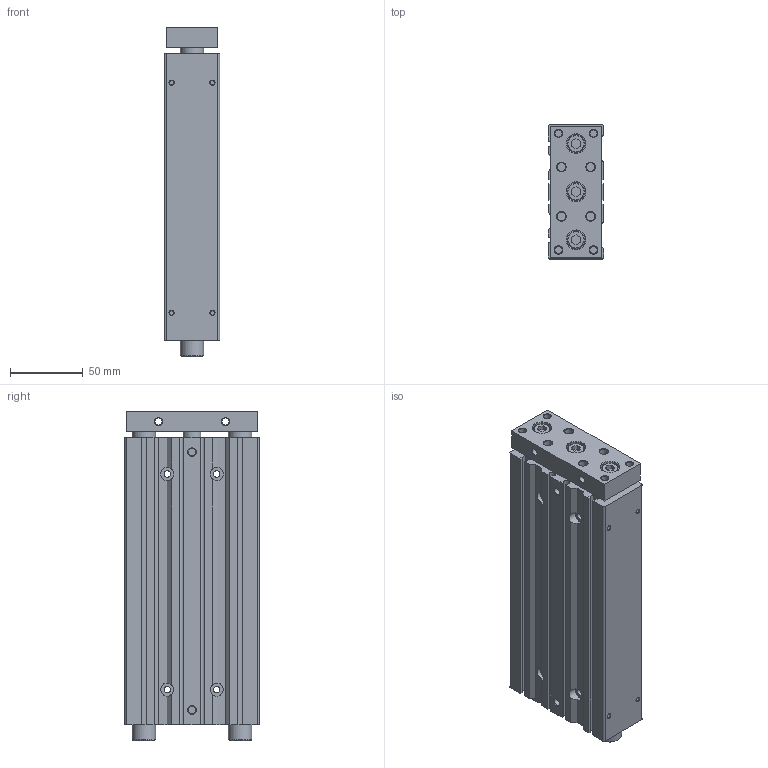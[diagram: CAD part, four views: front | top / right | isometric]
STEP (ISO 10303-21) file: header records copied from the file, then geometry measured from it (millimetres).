
FILE_DESCRIPTION((''),'2;1');
FILE_NAME('I:\3D電子目錄\氣缸\TB(U)\TB(U)25\TB(U)25\TB(U)25x150.stp','2007-08-06T08:24:11',('Administrator'),(''),'Autodesk Inventor 2008','Autodesk Inventor 2008','');
FILE_SCHEMA(('AUTOMOTIVE_DESIGN { 1 0 10303 214 1 1 1 1 }'));
Length unit declared in the file: millimetre
Products named in the file (1): TB(U)25X150
Bounding box: 38 x 92 x 226 mm (x, y, z)
Volume: 679096.7 mm3; surface area: 92202.9 mm2
Topology: 1 solids, 1 shells, 214 faces, 500 edges, 318 vertices
Faces by surface type: plane 104, cylinder 48, cone 39, bspline 20, torus 3
Full cylindrical faces by diameter (mm): 3 x4, 4.4 x4, 5 x6, 6 x8, 9 x4, 12 x4, 13 x3, 16 x4, 21 x2, 28 x1
Entity records: 5814 total; most frequent: CARTESIAN_POINT 1133, DIRECTION 968, ORIENTED_EDGE 808, EDGE_CURVE 404, AXIS2_PLACEMENT_3D 369, EDGE_LOOP 368, VERTEX_POINT 314, VECTOR 230
